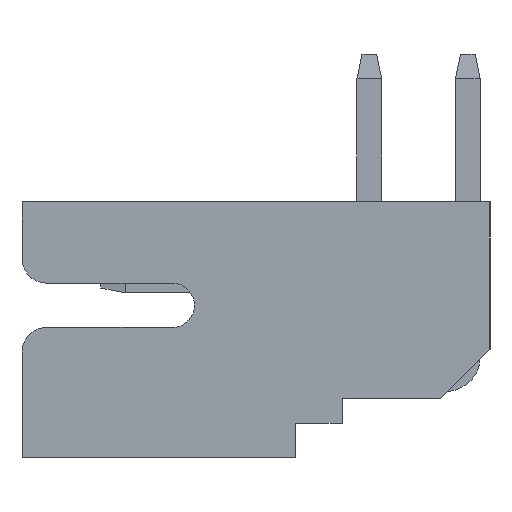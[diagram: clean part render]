
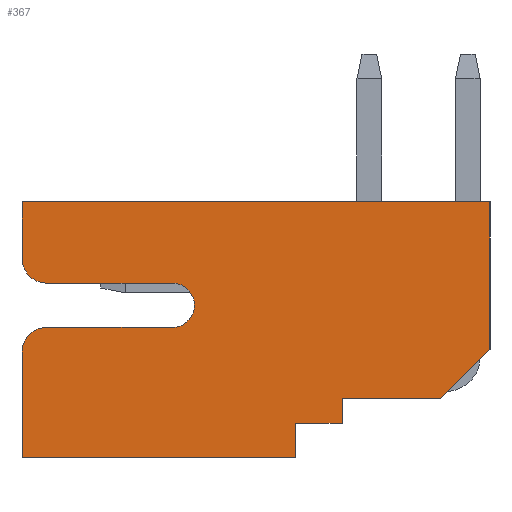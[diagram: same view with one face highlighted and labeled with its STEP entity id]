
A CAD part, left-side view. The second image highlights one B-rep face of the part: STEP entity #367.
In plain terms, the highlighted planar face has unit normal (-1, 0, 0).
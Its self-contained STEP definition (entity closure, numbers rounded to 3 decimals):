
#168=CARTESIAN_POINT('Vertex',(-18.,-8.5,-4.)) ;
#171=CARTESIAN_POINT('Line Origine',(-18.,-7.5,-4.)) ;
#175=CARTESIAN_POINT('Vertex',(-18.,-6.5,-4.)) ;
#233=CARTESIAN_POINT('Vertex',(-18.,-9.5,-3.)) ;
#236=CARTESIAN_POINT('Line Origine',(-18.,-9.,-3.5)) ;
#248=CARTESIAN_POINT('Axis2P3D Location',(-18.,0.,0.)) ;
#253=CARTESIAN_POINT('Line Origine',(-18.,-9.5,-1.5)) ;
#257=CARTESIAN_POINT('Vertex',(-18.,-9.5,0.)) ;
#260=CARTESIAN_POINT('Line Origine',(-18.,-4.75,0.)) ;
#264=CARTESIAN_POINT('Vertex',(-18.,0.,0.)) ;
#267=CARTESIAN_POINT('Line Origine',(-18.,0.,-0.575)) ;
#271=CARTESIAN_POINT('Vertex',(-18.,0.,-1.15)) ;
#274=CARTESIAN_POINT('Axis2P3D Location',(-18.,-0.5,-1.15)) ;
#278=CARTESIAN_POINT('Vertex',(-18.,-0.5,-1.65)) ;
#281=CARTESIAN_POINT('Line Origine',(-18.,-1.775,-1.65)) ;
#285=CARTESIAN_POINT('Vertex',(-18.,-3.05,-1.65)) ;
#288=CARTESIAN_POINT('Axis2P3D Location',(-18.,-3.05,-2.1)) ;
#292=CARTESIAN_POINT('Vertex',(-18.,-3.5,-2.1)) ;
#295=CARTESIAN_POINT('Axis2P3D Location',(-18.,-3.05,-2.1)) ;
#299=CARTESIAN_POINT('Vertex',(-18.,-3.05,-2.55)) ;
#302=CARTESIAN_POINT('Line Origine',(-18.,-1.775,-2.55)) ;
#306=CARTESIAN_POINT('Vertex',(-18.,-0.5,-2.55)) ;
#309=CARTESIAN_POINT('Axis2P3D Location',(-18.,-0.5,-3.05)) ;
#313=CARTESIAN_POINT('Vertex',(-18.,0.,-3.05)) ;
#316=CARTESIAN_POINT('Line Origine',(-18.,0.,-4.125)) ;
#320=CARTESIAN_POINT('Vertex',(-18.,0.,-5.2)) ;
#323=CARTESIAN_POINT('Line Origine',(-18.,-2.775,-5.2)) ;
#327=CARTESIAN_POINT('Vertex',(-18.,-5.55,-5.2)) ;
#330=CARTESIAN_POINT('Line Origine',(-18.,-5.55,-4.85)) ;
#334=CARTESIAN_POINT('Vertex',(-18.,-5.55,-4.5)) ;
#337=CARTESIAN_POINT('Line Origine',(-18.,-6.025,-4.5)) ;
#341=CARTESIAN_POINT('Vertex',(-18.,-6.5,-4.5)) ;
#344=CARTESIAN_POINT('Line Origine',(-18.,-6.5,-4.25)) ;
#172=DIRECTION('Vector Direction',(0.,1.,0.)) ;
#237=DIRECTION('Vector Direction',(0.,0.707,-0.707)) ;
#249=DIRECTION('Axis2P3D Direction',(-1.,0.,0.)) ;
#250=DIRECTION('Axis2P3D XDirection',(-0.,-0.,-1.)) ;
#254=DIRECTION('Vector Direction',(0.,0.,-1.)) ;
#261=DIRECTION('Vector Direction',(0.,1.,0.)) ;
#268=DIRECTION('Vector Direction',(0.,0.,-1.)) ;
#275=DIRECTION('Axis2P3D Direction',(-1.,0.,0.)) ;
#282=DIRECTION('Vector Direction',(0.,-1.,0.)) ;
#289=DIRECTION('Axis2P3D Direction',(-1.,0.,0.)) ;
#296=DIRECTION('Axis2P3D Direction',(-1.,0.,0.)) ;
#303=DIRECTION('Vector Direction',(0.,1.,0.)) ;
#310=DIRECTION('Axis2P3D Direction',(-1.,0.,0.)) ;
#317=DIRECTION('Vector Direction',(0.,0.,-1.)) ;
#324=DIRECTION('Vector Direction',(0.,-1.,0.)) ;
#331=DIRECTION('Vector Direction',(0.,0.,1.)) ;
#338=DIRECTION('Vector Direction',(0.,-1.,0.)) ;
#345=DIRECTION('Vector Direction',(0.,0.,1.)) ;
#251=AXIS2_PLACEMENT_3D('Plane Axis2P3D',#248,#249,#250) ;
#276=AXIS2_PLACEMENT_3D('Circle Axis2P3D',#274,#275,$) ;
#290=AXIS2_PLACEMENT_3D('Circle Axis2P3D',#288,#289,$) ;
#297=AXIS2_PLACEMENT_3D('Circle Axis2P3D',#295,#296,$) ;
#311=AXIS2_PLACEMENT_3D('Circle Axis2P3D',#309,#310,$) ;
#350=ORIENTED_EDGE('',*,*,#177,.T.) ;
#351=ORIENTED_EDGE('',*,*,#240,.T.) ;
#352=ORIENTED_EDGE('',*,*,#259,.T.) ;
#353=ORIENTED_EDGE('',*,*,#266,.T.) ;
#354=ORIENTED_EDGE('',*,*,#273,.T.) ;
#355=ORIENTED_EDGE('',*,*,#280,.T.) ;
#356=ORIENTED_EDGE('',*,*,#287,.T.) ;
#357=ORIENTED_EDGE('',*,*,#294,.T.) ;
#358=ORIENTED_EDGE('',*,*,#301,.T.) ;
#359=ORIENTED_EDGE('',*,*,#308,.T.) ;
#360=ORIENTED_EDGE('',*,*,#315,.T.) ;
#361=ORIENTED_EDGE('',*,*,#322,.T.) ;
#362=ORIENTED_EDGE('',*,*,#329,.T.) ;
#363=ORIENTED_EDGE('',*,*,#336,.T.) ;
#364=ORIENTED_EDGE('',*,*,#343,.T.) ;
#365=ORIENTED_EDGE('',*,*,#348,.T.) ;
#173=VECTOR('Line Direction',#172,1.) ;
#238=VECTOR('Line Direction',#237,1.) ;
#255=VECTOR('Line Direction',#254,1.) ;
#262=VECTOR('Line Direction',#261,1.) ;
#269=VECTOR('Line Direction',#268,1.) ;
#283=VECTOR('Line Direction',#282,1.) ;
#304=VECTOR('Line Direction',#303,1.) ;
#318=VECTOR('Line Direction',#317,1.) ;
#325=VECTOR('Line Direction',#324,1.) ;
#332=VECTOR('Line Direction',#331,1.) ;
#339=VECTOR('Line Direction',#338,1.) ;
#346=VECTOR('Line Direction',#345,1.) ;
#367=ADVANCED_FACE('\X2\96F64EF651E04F554F53\X0\',(#366),#252,.T.) ;
#277=CIRCLE('generated circle',#276,0.5) ;
#291=CIRCLE('generated circle',#290,0.45) ;
#298=CIRCLE('generated circle',#297,0.45) ;
#312=CIRCLE('generated circle',#311,0.5) ;
#177=EDGE_CURVE('',#176,#169,#174,.F.) ;
#240=EDGE_CURVE('',#169,#234,#239,.F.) ;
#259=EDGE_CURVE('',#234,#258,#256,.F.) ;
#266=EDGE_CURVE('',#258,#265,#263,.T.) ;
#273=EDGE_CURVE('',#265,#272,#270,.T.) ;
#280=EDGE_CURVE('',#272,#279,#277,.T.) ;
#287=EDGE_CURVE('',#279,#286,#284,.T.) ;
#294=EDGE_CURVE('',#286,#293,#291,.F.) ;
#301=EDGE_CURVE('',#293,#300,#298,.F.) ;
#308=EDGE_CURVE('',#300,#307,#305,.T.) ;
#315=EDGE_CURVE('',#307,#314,#312,.T.) ;
#322=EDGE_CURVE('',#314,#321,#319,.T.) ;
#329=EDGE_CURVE('',#321,#328,#326,.T.) ;
#336=EDGE_CURVE('',#328,#335,#333,.T.) ;
#343=EDGE_CURVE('',#335,#342,#340,.T.) ;
#348=EDGE_CURVE('',#342,#176,#347,.T.) ;
#349=EDGE_LOOP('',(#350,#351,#352,#353,#354,#355,#356,#357,#358,#359,#360,#361,#362,#363,#364,#365)) ;
#366=FACE_OUTER_BOUND('',#349,.T.) ;
#174=LINE('Line',#171,#173) ;
#239=LINE('Line',#236,#238) ;
#256=LINE('Line',#253,#255) ;
#263=LINE('Line',#260,#262) ;
#270=LINE('Line',#267,#269) ;
#284=LINE('Line',#281,#283) ;
#305=LINE('Line',#302,#304) ;
#319=LINE('Line',#316,#318) ;
#326=LINE('Line',#323,#325) ;
#333=LINE('Line',#330,#332) ;
#340=LINE('Line',#337,#339) ;
#347=LINE('Line',#344,#346) ;
#252=PLANE('Plane',#251) ;
#169=VERTEX_POINT('',#168) ;
#176=VERTEX_POINT('',#175) ;
#234=VERTEX_POINT('',#233) ;
#258=VERTEX_POINT('',#257) ;
#265=VERTEX_POINT('',#264) ;
#272=VERTEX_POINT('',#271) ;
#279=VERTEX_POINT('',#278) ;
#286=VERTEX_POINT('',#285) ;
#293=VERTEX_POINT('',#292) ;
#300=VERTEX_POINT('',#299) ;
#307=VERTEX_POINT('',#306) ;
#314=VERTEX_POINT('',#313) ;
#321=VERTEX_POINT('',#320) ;
#328=VERTEX_POINT('',#327) ;
#335=VERTEX_POINT('',#334) ;
#342=VERTEX_POINT('',#341) ;
